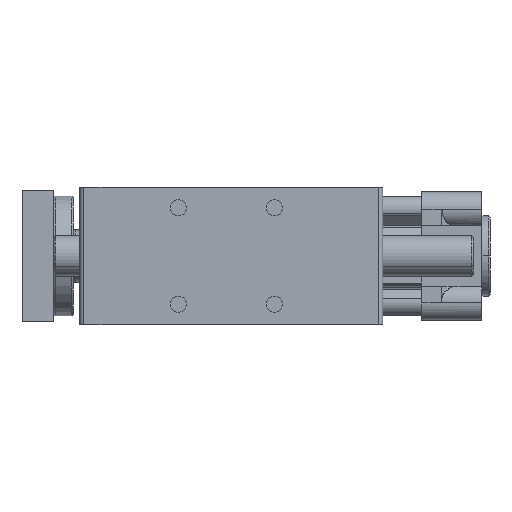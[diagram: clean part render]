
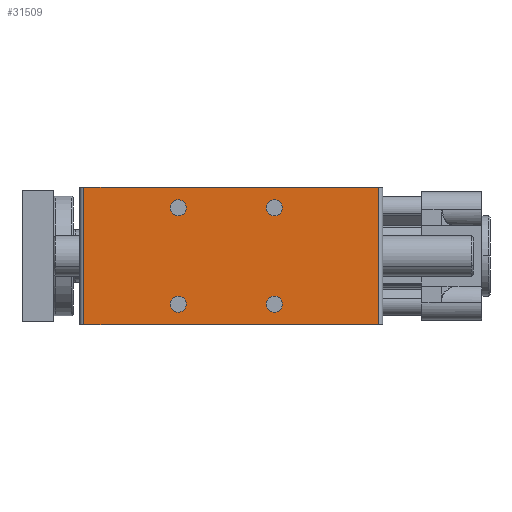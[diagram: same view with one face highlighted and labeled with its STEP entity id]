
A CAD part, left-side view. The second image highlights one B-rep face of the part: STEP entity #31509.
In plain terms, the highlighted planar face has unit normal (-1, 0, 0).
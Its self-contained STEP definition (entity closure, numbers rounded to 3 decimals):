
#293 = CARTESIAN_POINT ( 'NONE',  ( 0., -2., 68.5 ) ) ;
#615 = VERTEX_POINT ( 'NONE', #26317 ) ;
#646 = CARTESIAN_POINT ( 'NONE',  ( 0., -49., 10.25 ) ) ;
#1133 = DIRECTION ( 'NONE',  ( -1., 0., 0. ) ) ;
#1786 = ORIENTED_EDGE ( 'NONE', *, *, #24177, .F. ) ;
#2471 = CIRCLE ( 'NONE', #28996, 4. ) ;
#2494 = AXIS2_PLACEMENT_3D ( 'NONE', #9636, #30885, #12711 ) ;
#2735 = DIRECTION ( 'NONE',  ( -1., 0., 0. ) ) ;
#3373 = CARTESIAN_POINT ( 'NONE',  ( 0., -101., 10.25 ) ) ;
#3693 = DIRECTION ( 'NONE',  ( 0., -1., 0. ) ) ;
#3872 = AXIS2_PLACEMENT_3D ( 'NONE', #20874, #2735, #23914 ) ;
#4892 = EDGE_LOOP ( 'NONE', ( #7968, #38183 ) ) ;
#6314 = DIRECTION ( 'NONE',  ( 0., -1., 0. ) ) ;
#6335 = EDGE_CURVE ( 'NONE', #6814, #6597, #37235, .T. ) ;
#6597 = VERTEX_POINT ( 'NONE', #17542 ) ;
#6676 = EDGE_CURVE ( 'NONE', #8235, #32866, #16390, .T. ) ;
#6814 = VERTEX_POINT ( 'NONE', #3373 ) ;
#6899 = VERTEX_POINT ( 'NONE', #31274 ) ;
#6962 = CARTESIAN_POINT ( 'NONE',  ( 0., -2., 68.5 ) ) ;
#7162 = EDGE_CURVE ( 'NONE', #32866, #8235, #25142, .T. ) ;
#7968 = ORIENTED_EDGE ( 'NONE', *, *, #36134, .F. ) ;
#8125 = EDGE_LOOP ( 'NONE', ( #20437, #23339 ) ) ;
#8235 = VERTEX_POINT ( 'NONE', #10672 ) ;
#9088 = ORIENTED_EDGE ( 'NONE', *, *, #29464, .T. ) ;
#9245 = DIRECTION ( 'NONE',  ( -1., 0., 0. ) ) ;
#9636 = CARTESIAN_POINT ( 'NONE',  ( 0., -97., 10.25 ) ) ;
#10066 = CARTESIAN_POINT ( 'NONE',  ( 0., -49., 58.25 ) ) ;
#10628 = VERTEX_POINT ( 'NONE', #12253 ) ;
#10654 = ORIENTED_EDGE ( 'NONE', *, *, #31252, .T. ) ;
#10672 = CARTESIAN_POINT ( 'NONE',  ( 0., -101., 58.25 ) ) ;
#10797 = EDGE_LOOP ( 'NONE', ( #21163, #18729 ) ) ;
#11009 = CARTESIAN_POINT ( 'NONE',  ( 0., -49., 10.25 ) ) ;
#11100 = CARTESIAN_POINT ( 'NONE',  ( 0., -149., 68.5 ) ) ;
#11498 = CARTESIAN_POINT ( 'NONE',  ( 0., -2., 0. ) ) ;
#11627 = CARTESIAN_POINT ( 'NONE',  ( 0., -49., 58.25 ) ) ;
#12253 = CARTESIAN_POINT ( 'NONE',  ( 0., -45., 58.25 ) ) ;
#12362 = VERTEX_POINT ( 'NONE', #293 ) ;
#12405 = FACE_BOUND ( 'NONE', #10797, .T. ) ;
#12711 = DIRECTION ( 'NONE',  ( 0., 1., 0. ) ) ;
#12901 = VECTOR ( 'NONE', #14179, 1000. ) ;
#13127 = DIRECTION ( 'NONE',  ( 0., 1., 0. ) ) ;
#13223 = VERTEX_POINT ( 'NONE', #32127 ) ;
#13353 = FACE_BOUND ( 'NONE', #4892, .T. ) ;
#14084 = DIRECTION ( 'NONE',  ( 0., -1., 0. ) ) ;
#14106 = CARTESIAN_POINT ( 'NONE',  ( 0., -93., 58.25 ) ) ;
#14179 = DIRECTION ( 'NONE',  ( 0., 0., -1. ) ) ;
#14626 = EDGE_CURVE ( 'NONE', #6899, #33301, #21013, .T. ) ;
#14701 = DIRECTION ( 'NONE',  ( 0., 1., 0. ) ) ;
#16390 = CIRCLE ( 'NONE', #3872, 4. ) ;
#17407 = DIRECTION ( 'NONE',  ( 1., 0., 0. ) ) ;
#17542 = CARTESIAN_POINT ( 'NONE',  ( 0., -93., 10.25 ) ) ;
#18366 = CARTESIAN_POINT ( 'NONE',  ( 0., -2., 0. ) ) ;
#18729 = ORIENTED_EDGE ( 'NONE', *, *, #38067, .F. ) ;
#18828 = CIRCLE ( 'NONE', #24026, 4. ) ;
#19031 = DIRECTION ( 'NONE',  ( 0., -1., 0. ) ) ;
#19085 = VECTOR ( 'NONE', #6314, 1000. ) ;
#19276 = CARTESIAN_POINT ( 'NONE',  ( 0., -97., 10.25 ) ) ;
#19388 = CARTESIAN_POINT ( 'NONE',  ( 0., -149., 0. ) ) ;
#19398 = VECTOR ( 'NONE', #19031, 1000. ) ;
#20332 = CARTESIAN_POINT ( 'NONE',  ( 0., -2., 68.5 ) ) ;
#20437 = ORIENTED_EDGE ( 'NONE', *, *, #6676, .F. ) ;
#20511 = FACE_BOUND ( 'NONE', #32925, .T. ) ;
#20874 = CARTESIAN_POINT ( 'NONE',  ( 0., -97., 58.25 ) ) ;
#21013 = LINE ( 'NONE', #11100, #12901 ) ;
#21087 = CARTESIAN_POINT ( 'NONE',  ( 0., -2., 68.5 ) ) ;
#21109 = CIRCLE ( 'NONE', #2494, 4. ) ;
#21163 = ORIENTED_EDGE ( 'NONE', *, *, #6335, .F. ) ;
#21219 = DIRECTION ( 'NONE',  ( 0., 0., -1. ) ) ;
#21848 = DIRECTION ( 'NONE',  ( -1., 0., 0. ) ) ;
#22328 = DIRECTION ( 'NONE',  ( 0., 1., 0. ) ) ;
#22367 = AXIS2_PLACEMENT_3D ( 'NONE', #20332, #17407, #38572 ) ;
#22534 = CIRCLE ( 'NONE', #31055, 4. ) ;
#22845 = VERTEX_POINT ( 'NONE', #11498 ) ;
#23153 = ORIENTED_EDGE ( 'NONE', *, *, #30853, .F. ) ;
#23339 = ORIENTED_EDGE ( 'NONE', *, *, #7162, .F. ) ;
#23910 = AXIS2_PLACEMENT_3D ( 'NONE', #646, #21848, #3693 ) ;
#23914 = DIRECTION ( 'NONE',  ( 0., -1., 0. ) ) ;
#24026 = AXIS2_PLACEMENT_3D ( 'NONE', #10066, #31299, #13127 ) ;
#24177 = EDGE_CURVE ( 'NONE', #27651, #615, #22534, .T. ) ;
#25142 = CIRCLE ( 'NONE', #27505, 4. ) ;
#25611 = CARTESIAN_POINT ( 'NONE',  ( 0., -53., 10.25 ) ) ;
#26317 = CARTESIAN_POINT ( 'NONE',  ( 0., -45., 10.25 ) ) ;
#27453 = CARTESIAN_POINT ( 'NONE',  ( 0., -97., 58.25 ) ) ;
#27505 = AXIS2_PLACEMENT_3D ( 'NONE', #27453, #9245, #30483 ) ;
#27651 = VERTEX_POINT ( 'NONE', #25611 ) ;
#27730 = VECTOR ( 'NONE', #21219, 1000. ) ;
#28559 = FACE_BOUND ( 'NONE', #8125, .T. ) ;
#28996 = AXIS2_PLACEMENT_3D ( 'NONE', #11627, #32855, #14701 ) ;
#29464 = EDGE_CURVE ( 'NONE', #12362, #22845, #35751, .T. ) ;
#30483 = DIRECTION ( 'NONE',  ( 0., -1., 0. ) ) ;
#30853 = EDGE_CURVE ( 'NONE', #615, #27651, #38529, .T. ) ;
#30885 = DIRECTION ( 'NONE',  ( -1., 0., 0. ) ) ;
#31055 = AXIS2_PLACEMENT_3D ( 'NONE', #11009, #32256, #14084 ) ;
#31252 = EDGE_CURVE ( 'NONE', #22845, #33301, #35170, .T. ) ;
#31274 = CARTESIAN_POINT ( 'NONE',  ( 0., -149., 68.5 ) ) ;
#31299 = DIRECTION ( 'NONE',  ( -1., 0., 0. ) ) ;
#31509 = ADVANCED_FACE ( 'NONE', ( #12405, #20511, #28559, #13353, #36593 ), #32511, .F. ) ;
#32127 = CARTESIAN_POINT ( 'NONE',  ( 0., -53., 58.25 ) ) ;
#32256 = DIRECTION ( 'NONE',  ( -1., 0., 0. ) ) ;
#32262 = EDGE_CURVE ( 'NONE', #10628, #13223, #2471, .T. ) ;
#32511 = PLANE ( 'NONE',  #22367 ) ;
#32855 = DIRECTION ( 'NONE',  ( -1., 0., 0. ) ) ;
#32866 = VERTEX_POINT ( 'NONE', #14106 ) ;
#32925 = EDGE_LOOP ( 'NONE', ( #1786, #23153 ) ) ;
#33301 = VERTEX_POINT ( 'NONE', #19388 ) ;
#34344 = EDGE_CURVE ( 'NONE', #12362, #6899, #35486, .T. ) ;
#35170 = LINE ( 'NONE', #18366, #19085 ) ;
#35374 = ORIENTED_EDGE ( 'NONE', *, *, #14626, .F. ) ;
#35486 = LINE ( 'NONE', #6962, #19398 ) ;
#35751 = LINE ( 'NONE', #21087, #27730 ) ;
#36134 = EDGE_CURVE ( 'NONE', #13223, #10628, #18828, .T. ) ;
#36593 = FACE_OUTER_BOUND ( 'NONE', #38913, .T. ) ;
#37071 = ORIENTED_EDGE ( 'NONE', *, *, #34344, .F. ) ;
#37235 = CIRCLE ( 'NONE', #37817, 4. ) ;
#37817 = AXIS2_PLACEMENT_3D ( 'NONE', #19276, #1133, #22328 ) ;
#38067 = EDGE_CURVE ( 'NONE', #6597, #6814, #21109, .T. ) ;
#38183 = ORIENTED_EDGE ( 'NONE', *, *, #32262, .F. ) ;
#38529 = CIRCLE ( 'NONE', #23910, 4. ) ;
#38572 = DIRECTION ( 'NONE',  ( 0., 1., 0. ) ) ;
#38913 = EDGE_LOOP ( 'NONE', ( #10654, #35374, #37071, #9088 ) ) ;
